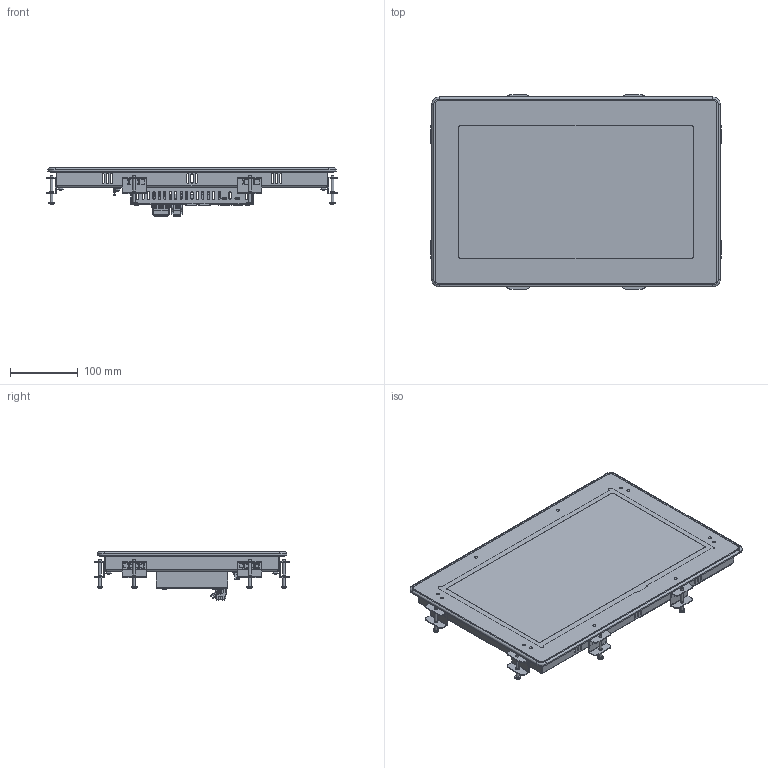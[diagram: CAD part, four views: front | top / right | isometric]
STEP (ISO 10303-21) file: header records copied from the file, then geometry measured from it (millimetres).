
FILE_DESCRIPTION (( 'STEP AP214' ), '1' );
FILE_NAME ('2Txxxxxxx_Frontplatte_DC2115_komplett_mit_Display_vereinfacht_Stand04102016_02.STEP', '2016-10-04T14:57:01', ( '' ), ( '' ), 'SwSTEP 2.0', 'SolidWorks 2016', '' );
FILE_SCHEMA (( 'AUTOMOTIVE_DESIGN' ));
Length unit declared in the file: millimetre
Products named in the file (1): 2Txxxxxxx_Frontplatte_DC2115_komplett_mit_Display_vereinfacht_Stand04102016_02
Bounding box: 428 x 286 x 71.1 mm (x, y, z)
Volume: 524851 mm3; surface area: 734061 mm2
Topology: 112 solids, 131 shells, 7732 faces, 20548 edges, 13370 vertices
Faces by surface type: plane 5699, cylinder 1495, bspline 270, cone 239, torus 17, sphere 12
Full cylindrical faces by diameter (mm): 0.233 x1, 0.411 x1, 0.45 x54, 0.6 x2, 0.65 x2, 1.5 x1, 1.567 x4, 1.95 x4, 2 x1, 2.2 x4, 2.25 x12, 2.3 x1, 3 x9, 3.05 x12, 3.1 x4, 3.3 x25, 3.5 x5, 3.85 x12, 4 x42, 4.3 x12, 4.5 x8, 4.65 x12, 4.8 x8, 5 x8, 5.1 x1, 5.4 x5, 5.9 x1, 6 x5, 7 x1, 8 x8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
Entity records: 334790 total; most frequent: CARTESIAN_POINT 59340, ORIENTED_EDGE 40110, DIRECTION 36596, EDGE_CURVE 20055, VECTOR 15434, LINE 15434, VERTEX_POINT 13269, AXIS2_PLACEMENT_3D 10581
